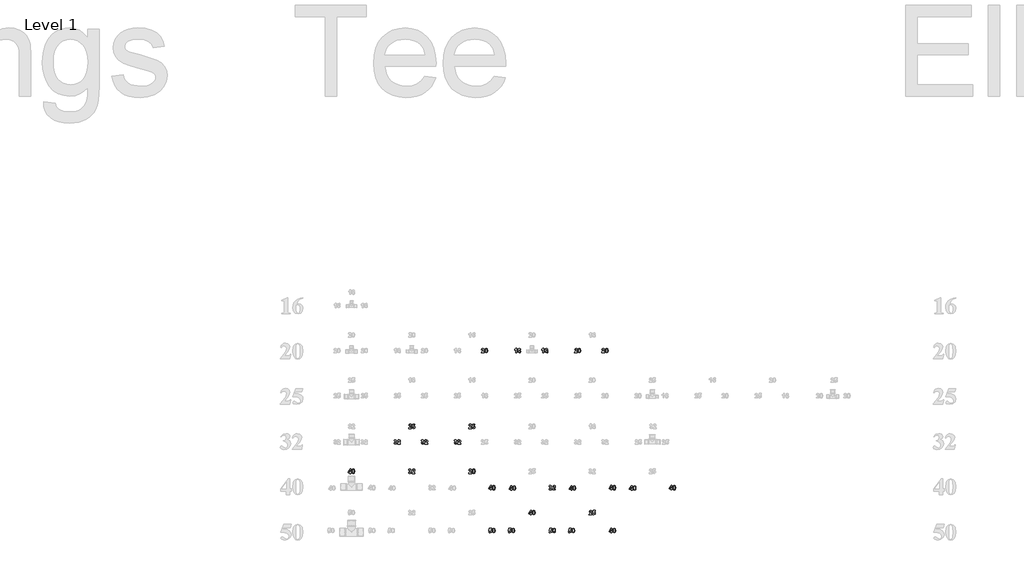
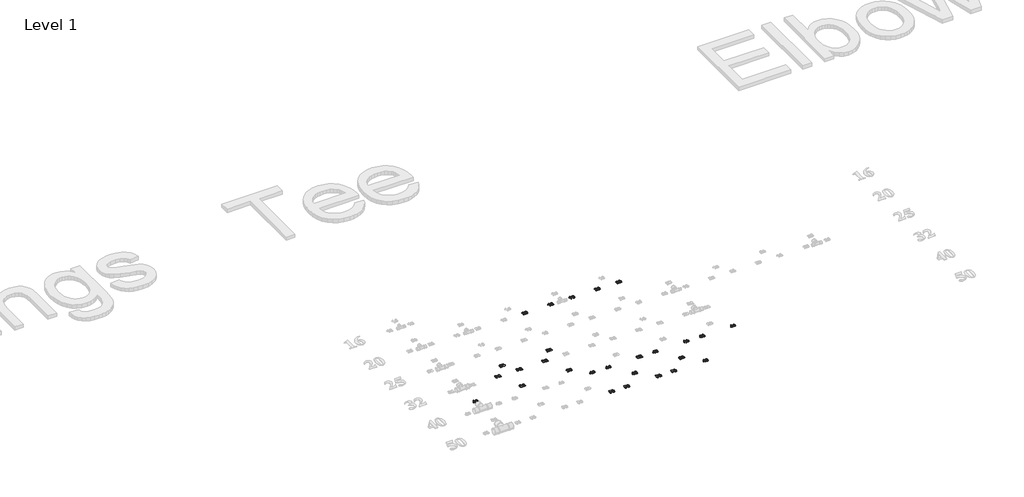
# One storey, part 28 of 57: 27 proxies.
"""IFC4 building model written with IfcOpenShell, lengths in millimetres."""

from ifc_helpers import new_model, si_unit, frame, origin, place, context, project, spatial, polyline, outline, extrude, element, save

model = new_model("IFC4")

# Units and contexts
model_context = context("Model", 3, world=origin())
ifc_project = project(units=[si_unit("LENGTHUNIT", "METRE", prefix="MILLI")], contexts=[model_context])

# Site, building, storey
site = spatial("IfcSite", under=ifc_project)
building = spatial("IfcBuilding", under=site)
storey = spatial("IfcBuildingStorey", under=building, Name="Level 1", Elevation=27.3876384)

# Proxies
placement = place(None, origin())
element("IfcBuildingElementProxy", 1, Name="30mm Arial", ObjectType="30mm Arial", at=placement, inside=storey, context=model_context, shape_type="SweptSolid", body=[
    extrude(outline(polyline([(14051.7711985, 29891.7147148), (14051.7711985, 29885.8846611), (14032.3376861, 29885.8846611), (14034.1975339, 29891.6046422), (14040.3084626, 29898.7745455), (14044.8176448, 29903.6632884), (14045.9411448, 29907.1704301), (14044.9960384, 29910.1196174), (14042.3884558, 29911.1482272), (14039.7770775, 29910.1347999), (14038.6535776, 29906.7756869), (14032.8235239, 29907.307072), (14035.9511048, 29914.3555158), (14042.5175064, 29916.4924431), (14049.3040533, 29914.0974145), (14051.7711985, 29908.1421057), (14051.0955803, 29904.2857681), (14048.9548574, 29900.4522042), (14045.3300519, 29896.6262314), (14042.0013038, 29893.3088701), (14040.9081687, 29891.7147148), (14051.7711985, 29891.7147148)])), frame((0.0, 0.0, 27.3876384), z_axis=(0.0, 0.0, 1.0), x_axis=(1.0, 0.0, 0.0)), (0.0, 0.0, 1.0), 2.0),
    extrude(outline(polyline([(14065.3746571, 29916.4924431), (14072.1687952, 29913.3344973), (14075.0914133, 29900.938042), (14072.1536128, 29888.5112217), (14065.3746571, 29885.3988233), (14058.3338045, 29888.8148704), (14055.6579009, 29900.9987717), (14058.5957014, 29913.3800446), (14065.3746571, 29916.4924431)]), holes=[polyline([(14065.3746571, 29911.1482272), (14063.4313059, 29910.5067694), (14062.1104343, 29908.2028355), (14061.4879547, 29900.938042), (14062.0421134, 29893.919963), (14063.4426927, 29891.3769057), (14065.3746571, 29890.7430392), (14067.3180084, 29891.3844969), (14068.6388799, 29893.6884309), (14069.2613596, 29900.938042), (14068.7072009, 29907.9523253), (14067.3066215, 29910.5067694), (14065.3746571, 29911.1482272)])]), frame((0.0, 0.0, 27.3876384), z_axis=(0.0, 0.0, 1.0), x_axis=(1.0, 0.0, 0.0)), (0.0, 0.0, 1.0), 2.0),
])
element("IfcBuildingElementProxy", 2, Name="30mm Arial", ObjectType="30mm Arial", at=placement, inside=storey, context=model_context, shape_type="SweptSolid", body=[
    extrude(outline(polyline([(14445.6628204, 29885.8846611), (14439.8327667, 29885.8846611), (14439.8327667, 29907.7625449), (14432.5451995, 29902.8889844), (14432.5451995, 29908.7190381), (14437.4111688, 29911.5771309), (14441.0169963, 29916.4924431), (14445.6628204, 29916.4924431), (14445.6628204, 29885.8846611)])), frame((0.0, 0.0, 27.3876384), z_axis=(0.0, 0.0, 1.0), x_axis=(1.0, 0.0, 0.0)), (0.0, 0.0, 1.0), 2.0),
    extrude(outline(polyline([(14473.3555755, 29908.3698422), (14467.5255218, 29907.7473625), (14466.4931165, 29910.3169891), (14464.3220287, 29911.1482272), (14461.3310897, 29909.5350938), (14459.7900729, 29902.7599337), (14465.1191064, 29905.3181735), (14471.279378, 29902.5853358), (14473.8414133, 29895.5330963), (14471.2224439, 29888.1734126), (14464.4890355, 29885.3988233), (14457.2470156, 29888.9818771), (14454.4079009, 29900.7254879), (14457.3722707, 29912.795521), (14465.0735591, 29916.4924431), (14470.5771905, 29914.41245), (14473.3555755, 29908.3698422)]), holes=[polyline([(14460.2379547, 29895.662147), (14461.4980965, 29892.022159), (14464.3751673, 29890.7430392), (14466.971363, 29891.790627), (14468.0113596, 29895.2294477), (14466.8916553, 29898.8314796), (14464.0942923, 29899.9739576), (14461.357659, 29898.8808225), (14460.2379547, 29895.662147)])]), frame((0.0, 0.0, 27.3876384), z_axis=(0.0, 0.0, 1.0), x_axis=(1.0, 0.0, 0.0)), (0.0, 0.0, 1.0), 2.0),
])
element("IfcBuildingElementProxy", 3, Name="30mm Arial", ObjectType="30mm Arial", at=placement, inside=storey, context=model_context, shape_type="SweptSolid", body=[
    extrude(outline(polyline([(14265.6628204, 29885.8846611), (14259.8327667, 29885.8846611), (14259.8327667, 29907.7625449), (14252.5451995, 29902.8889844), (14252.5451995, 29908.7190381), (14257.4111688, 29911.5771309), (14261.0169963, 29916.4924431), (14265.6628204, 29916.4924431), (14265.6628204, 29885.8846611)])), frame((0.0, 0.0, 27.3876384), z_axis=(0.0, 0.0, 1.0), x_axis=(1.0, 0.0, 0.0)), (0.0, 0.0, 1.0), 2.0),
    extrude(outline(polyline([(14293.3555755, 29908.3698422), (14287.5255218, 29907.7473625), (14286.4931165, 29910.3169891), (14284.3220287, 29911.1482272), (14281.3310897, 29909.5350938), (14279.7900729, 29902.7599337), (14285.1191064, 29905.3181735), (14291.279378, 29902.5853358), (14293.8414133, 29895.5330963), (14291.2224439, 29888.1734126), (14284.4890355, 29885.3988233), (14277.2470156, 29888.9818771), (14274.4079009, 29900.7254879), (14277.3722707, 29912.795521), (14285.0735591, 29916.4924431), (14290.5771905, 29914.41245), (14293.3555755, 29908.3698422)]), holes=[polyline([(14280.2379547, 29895.662147), (14281.4980965, 29892.022159), (14284.3751673, 29890.7430392), (14286.971363, 29891.790627), (14288.0113596, 29895.2294477), (14286.8916553, 29898.8314796), (14284.0942923, 29899.9739576), (14281.357659, 29898.8808225), (14280.2379547, 29895.662147)])]), frame((0.0, 0.0, 27.3876384), z_axis=(0.0, 0.0, 1.0), x_axis=(1.0, 0.0, 0.0)), (0.0, 0.0, 1.0), 2.0),
])
element("IfcBuildingElementProxy", 4, Name="30mm Arial", ObjectType="30mm Arial", at=placement, inside=storey, context=model_context, shape_type="SweptSolid", body=[
    extrude(outline(polyline([(14849.2711985, 29891.7147148), (14849.2711985, 29885.8846611), (14829.8376861, 29885.8846611), (14831.6975339, 29891.6046422), (14837.8084626, 29898.7745455), (14842.3176448, 29903.6632884), (14843.4411448, 29907.1704301), (14842.4960384, 29910.1196174), (14839.8884558, 29911.1482272), (14837.2770775, 29910.1347999), (14836.1535776, 29906.7756869), (14830.3235239, 29907.307072), (14833.4511048, 29914.3555158), (14840.0175064, 29916.4924431), (14846.8040533, 29914.0974145), (14849.2711985, 29908.1421057), (14848.5955803, 29904.2857681), (14846.4548574, 29900.4522042), (14842.8300519, 29896.6262314), (14839.5013038, 29893.3088701), (14838.4081687, 29891.7147148), (14849.2711985, 29891.7147148)])), frame((0.0, 0.0, 27.3876384), z_axis=(0.0, 0.0, 1.0), x_axis=(1.0, 0.0, 0.0)), (0.0, 0.0, 1.0), 2.0),
    extrude(outline(polyline([(14862.8746571, 29916.4924431), (14869.6687952, 29913.3344973), (14872.5914133, 29900.938042), (14869.6536128, 29888.5112217), (14862.8746571, 29885.3988233), (14855.8338045, 29888.8148704), (14853.1579009, 29900.9987717), (14856.0957014, 29913.3800446), (14862.8746571, 29916.4924431)]), holes=[polyline([(14862.8746571, 29911.1482272), (14860.9313059, 29910.5067694), (14859.6104343, 29908.2028355), (14858.9879547, 29900.938042), (14859.5421134, 29893.919963), (14860.9426927, 29891.3769057), (14862.8746571, 29890.7430392), (14864.8180084, 29891.3844969), (14866.1388799, 29893.6884309), (14866.7613596, 29900.938042), (14866.2072009, 29907.9523253), (14864.8066215, 29910.5067694), (14862.8746571, 29911.1482272)])]), frame((0.0, 0.0, 27.3876384), z_axis=(0.0, 0.0, 1.0), x_axis=(1.0, 0.0, 0.0)), (0.0, 0.0, 1.0), 2.0),
])
element("IfcBuildingElementProxy", 5, Name="30mm Arial", ObjectType="30mm Arial", at=placement, inside=storey, context=model_context, shape_type="SweptSolid", body=[
    extrude(outline(polyline([(14669.2711985, 29891.7147148), (14669.2711985, 29885.8846611), (14649.8376861, 29885.8846611), (14651.6975339, 29891.6046422), (14657.8084626, 29898.7745455), (14662.3176448, 29903.6632884), (14663.4411448, 29907.1704301), (14662.4960384, 29910.1196174), (14659.8884558, 29911.1482272), (14657.2770775, 29910.1347999), (14656.1535776, 29906.7756869), (14650.3235239, 29907.307072), (14653.4511048, 29914.3555158), (14660.0175064, 29916.4924431), (14666.8040533, 29914.0974145), (14669.2711985, 29908.1421057), (14668.5955803, 29904.2857681), (14666.4548574, 29900.4522042), (14662.8300519, 29896.6262314), (14659.5013038, 29893.3088701), (14658.4081687, 29891.7147148), (14669.2711985, 29891.7147148)])), frame((0.0, 0.0, 27.3876384), z_axis=(0.0, 0.0, 1.0), x_axis=(1.0, 0.0, 0.0)), (0.0, 0.0, 1.0), 2.0),
    extrude(outline(polyline([(14682.8746571, 29916.4924431), (14689.6687952, 29913.3344973), (14692.5914133, 29900.938042), (14689.6536128, 29888.5112217), (14682.8746571, 29885.3988233), (14675.8338045, 29888.8148704), (14673.1579009, 29900.9987717), (14676.0957014, 29913.3800446), (14682.8746571, 29916.4924431)]), holes=[polyline([(14682.8746571, 29911.1482272), (14680.9313059, 29910.5067694), (14679.6104343, 29908.2028355), (14678.9879547, 29900.938042), (14679.5421134, 29893.919963), (14680.9426927, 29891.3769057), (14682.8746571, 29890.7430392), (14684.8180084, 29891.3844969), (14686.1388799, 29893.6884309), (14686.7613596, 29900.938042), (14686.2072009, 29907.9523253), (14684.8066215, 29910.5067694), (14682.8746571, 29911.1482272)])]), frame((0.0, 0.0, 27.3876384), z_axis=(0.0, 0.0, 1.0), x_axis=(1.0, 0.0, 0.0)), (0.0, 0.0, 1.0), 2.0),
])
element("IfcBuildingElementProxy", 6, Name="30mm Arial", ObjectType="30mm Arial", at=placement, inside=storey, context=model_context, shape_type="SweptSolid", body=[
    extrude(outline(polyline([(13569.1163525, 29389.4811137), (13569.1163525, 29383.65106), (13549.6828401, 29383.65106), (13551.542688, 29389.371041), (13557.6536167, 29396.5409443), (13562.1627988, 29401.4296873), (13563.2862988, 29404.936829), (13562.3411924, 29407.8860163), (13559.7336098, 29408.9146261), (13557.1222316, 29407.9011987), (13555.9987316, 29404.5420858), (13550.1686779, 29405.0734709), (13553.2962588, 29412.1219147), (13559.8626605, 29414.258842), (13566.6492074, 29411.8638134), (13569.1163525, 29405.9085046), (13568.4407343, 29402.052167), (13566.3000114, 29398.218603), (13562.6752059, 29394.3926303), (13559.3464578, 29391.075269), (13558.2533227, 29389.4811137), (13569.1163525, 29389.4811137)])), frame((0.0, 0.0, 27.3876384), z_axis=(0.0, 0.0, 1.0), x_axis=(1.0, 0.0, 0.0)), (0.0, 0.0, 1.0), 2.0),
    extrude(outline(polyline([(13573.003055, 29392.2670899), (13578.3472709, 29392.8819783), (13579.8351492, 29389.6860765), (13582.6894463, 29388.5094381), (13585.8132316, 29389.7581931), (13587.0923514, 29393.5196405), (13585.9043262, 29397.0495558), (13582.8109057, 29398.2261942), (13578.5446425, 29395.7970052), (13573.4888928, 29396.5485356), (13576.8897574, 29413.7730041), (13591.4648917, 29413.7730041), (13591.4648917, 29407.9429504), (13581.6039024, 29407.9429504), (13580.427264, 29402.3785893), (13584.1849158, 29403.5704102), (13590.3793479, 29400.8110032), (13592.9224052, 29393.6486911), (13590.804456, 29387.0974719), (13582.7805409, 29383.1652222), (13576.0964754, 29385.6323673), (13573.003055, 29392.2670899)])), frame((0.0, 0.0, 27.3876384), z_axis=(0.0, 0.0, 1.0), x_axis=(1.0, 0.0, 0.0)), (0.0, 0.0, 1.0), 2.0),
])
element("IfcBuildingElementProxy", 7, Name="30mm Arial", ObjectType="30mm Arial", at=placement, inside=storey, context=model_context, shape_type="SweptSolid", body=[
    extrude(outline(polyline([(13633.5876861, 29288.2641256), (13639.4177398, 29288.9397438), (13640.7310201, 29285.6907034), (13643.3196247, 29284.5672035), (13646.075236, 29285.8539146), (13647.1911448, 29289.3193046), (13646.1701262, 29292.5911186), (13643.6764118, 29293.7981219), (13641.361091, 29293.3654226), (13641.8697025, 29298.1706622), (13644.7429777, 29299.1271554), (13645.7336313, 29301.8296282), (13644.9934878, 29304.1183797), (13643.0235673, 29304.9723915), (13640.9473698, 29303.9817378), (13639.9035776, 29301.085689), (13634.0735239, 29301.9586788), (13635.679066, 29306.5931161), (13638.6775963, 29309.3221581), (13642.9856112, 29310.3166074), (13649.5292392, 29307.5609961), (13651.563685, 29302.4596991), (13647.198736, 29296.0299393), (13651.4346344, 29293.5286337), (13653.0211985, 29288.8334668), (13650.208653, 29282.035533), (13643.2057565, 29279.2229876), (13636.6203768, 29281.7242932), (13633.5876861, 29288.2641256)])), frame((0.0, 0.0, 27.3876384), z_axis=(0.0, 0.0, 1.0), x_axis=(1.0, 0.0, 0.0)), (0.0, 0.0, 1.0), 2.0),
    extrude(outline(polyline([(13676.3414133, 29285.5388791), (13676.3414133, 29279.7088254), (13656.9079009, 29279.7088254), (13658.7677488, 29285.4288065), (13664.8786775, 29292.5987098), (13669.3878597, 29297.4874528), (13670.5113596, 29300.9945944), (13669.5662532, 29303.9437818), (13666.9586706, 29304.9723915), (13664.3472924, 29303.9589642), (13663.2237925, 29300.5998512), (13657.3937388, 29301.1312363), (13660.5213196, 29308.1796802), (13667.0877213, 29310.3166074), (13673.8742682, 29307.9215788), (13676.3414133, 29301.9662701), (13675.6657951, 29298.1099324), (13673.5250723, 29294.2763685), (13669.9002667, 29290.4503957), (13666.5715186, 29287.1330344), (13665.4783835, 29285.5388791), (13676.3414133, 29285.5388791)])), frame((0.0, 0.0, 27.3876384), z_axis=(0.0, 0.0, 1.0), x_axis=(1.0, 0.0, 0.0)), (0.0, 0.0, 1.0), 2.0),
])
element("IfcBuildingElementProxy", 8, Name="30mm Arial", ObjectType="30mm Arial", at=placement, inside=storey, context=model_context, shape_type="SweptSolid", body=[
    extrude(outline(polyline([(13453.5876861, 29288.2641256), (13459.4177398, 29288.9397438), (13460.7310201, 29285.6907034), (13463.3196247, 29284.5672035), (13466.075236, 29285.8539146), (13467.1911448, 29289.3193046), (13466.1701262, 29292.5911186), (13463.6764118, 29293.7981219), (13461.361091, 29293.3654226), (13461.8697025, 29298.1706622), (13464.7429777, 29299.1271554), (13465.7336313, 29301.8296282), (13464.9934878, 29304.1183797), (13463.0235673, 29304.9723915), (13460.9473698, 29303.9817378), (13459.9035776, 29301.085689), (13454.0735239, 29301.9586788), (13455.679066, 29306.5931161), (13458.6775963, 29309.3221581), (13462.9856112, 29310.3166074), (13469.5292392, 29307.5609961), (13471.563685, 29302.4596991), (13467.198736, 29296.0299393), (13471.4346344, 29293.5286337), (13473.0211985, 29288.8334668), (13470.208653, 29282.035533), (13463.2057565, 29279.2229876), (13456.6203768, 29281.7242932), (13453.5876861, 29288.2641256)])), frame((0.0, 0.0, 27.3876384), z_axis=(0.0, 0.0, 1.0), x_axis=(1.0, 0.0, 0.0)), (0.0, 0.0, 1.0), 2.0),
    extrude(outline(polyline([(13496.3414133, 29285.5388791), (13496.3414133, 29279.7088254), (13476.9079009, 29279.7088254), (13478.7677488, 29285.4288065), (13484.8786775, 29292.5987098), (13489.3878597, 29297.4874528), (13490.5113596, 29300.9945944), (13489.5662532, 29303.9437818), (13486.9586706, 29304.9723915), (13484.3472924, 29303.9589642), (13483.2237925, 29300.5998512), (13477.3937388, 29301.1312363), (13480.5213196, 29308.1796802), (13487.0877213, 29310.3166074), (13493.8742682, 29307.9215788), (13496.3414133, 29301.9662701), (13495.6657951, 29298.1099324), (13493.5250723, 29294.2763685), (13489.9002667, 29290.4503957), (13486.5715186, 29287.1330344), (13485.4783835, 29285.5388791), (13496.3414133, 29285.5388791)])), frame((0.0, 0.0, 27.3876384), z_axis=(0.0, 0.0, 1.0), x_axis=(1.0, 0.0, 0.0)), (0.0, 0.0, 1.0), 2.0),
])
element("IfcBuildingElementProxy", 9, Name="30mm Arial", ObjectType="30mm Arial", at=placement, inside=storey, context=model_context, shape_type="SweptSolid", body=[
    extrude(outline(polyline([(13967.8663525, 29389.4811137), (13967.8663525, 29383.65106), (13948.4328401, 29383.65106), (13950.292688, 29389.371041), (13956.4036167, 29396.5409443), (13960.9127988, 29401.4296873), (13962.0362988, 29404.936829), (13961.0911924, 29407.8860163), (13958.4836098, 29408.9146261), (13955.8722316, 29407.9011987), (13954.7487316, 29404.5420858), (13948.9186779, 29405.0734709), (13952.0462588, 29412.1219147), (13958.6126605, 29414.258842), (13965.3992074, 29411.8638134), (13967.8663525, 29405.9085046), (13967.1907343, 29402.052167), (13965.0500114, 29398.218603), (13961.4252059, 29394.3926303), (13958.0964578, 29391.075269), (13957.0033227, 29389.4811137), (13967.8663525, 29389.4811137)])), frame((0.0, 0.0, 27.3876384), z_axis=(0.0, 0.0, 1.0), x_axis=(1.0, 0.0, 0.0)), (0.0, 0.0, 1.0), 2.0),
    extrude(outline(polyline([(13971.753055, 29392.2670899), (13977.0972709, 29392.8819783), (13978.5851492, 29389.6860765), (13981.4394463, 29388.5094381), (13984.5632316, 29389.7581931), (13985.8423514, 29393.5196405), (13984.6543262, 29397.0495558), (13981.5609057, 29398.2261942), (13977.2946425, 29395.7970052), (13972.2388928, 29396.5485356), (13975.6397574, 29413.7730041), (13990.2148917, 29413.7730041), (13990.2148917, 29407.9429504), (13980.3539024, 29407.9429504), (13979.177264, 29402.3785893), (13982.9349158, 29403.5704102), (13989.1293479, 29400.8110032), (13991.6724052, 29393.6486911), (13989.554456, 29387.0974719), (13981.5305409, 29383.1652222), (13974.8464754, 29385.6323673), (13971.753055, 29392.2670899)])), frame((0.0, 0.0, 27.3876384), z_axis=(0.0, 0.0, 1.0), x_axis=(1.0, 0.0, 0.0)), (0.0, 0.0, 1.0), 2.0),
])
element("IfcBuildingElementProxy", 10, Name="30mm Arial", ObjectType="30mm Arial", at=placement, inside=storey, context=model_context, shape_type="SweptSolid", body=[
    extrude(outline(polyline([(13852.3376861, 29288.2641256), (13858.1677398, 29288.9397438), (13859.4810201, 29285.6907034), (13862.0696247, 29284.5672035), (13864.825236, 29285.8539146), (13865.9411448, 29289.3193046), (13864.9201262, 29292.5911186), (13862.4264118, 29293.7981219), (13860.111091, 29293.3654226), (13860.6197025, 29298.1706622), (13863.4929777, 29299.1271554), (13864.4836313, 29301.8296282), (13863.7434878, 29304.1183797), (13861.7735673, 29304.9723915), (13859.6973698, 29303.9817378), (13858.6535776, 29301.085689), (13852.8235239, 29301.9586788), (13854.429066, 29306.5931161), (13857.4275963, 29309.3221581), (13861.7356112, 29310.3166074), (13868.2792392, 29307.5609961), (13870.313685, 29302.4596991), (13865.948736, 29296.0299393), (13870.1846344, 29293.5286337), (13871.7711985, 29288.8334668), (13868.958653, 29282.035533), (13861.9557565, 29279.2229876), (13855.3703768, 29281.7242932), (13852.3376861, 29288.2641256)])), frame((0.0, 0.0, 27.3876384), z_axis=(0.0, 0.0, 1.0), x_axis=(1.0, 0.0, 0.0)), (0.0, 0.0, 1.0), 2.0),
    extrude(outline(polyline([(13895.0914133, 29285.5388791), (13895.0914133, 29279.7088254), (13875.6579009, 29279.7088254), (13877.5177488, 29285.4288065), (13883.6286775, 29292.5987098), (13888.1378597, 29297.4874528), (13889.2613596, 29300.9945944), (13888.3162532, 29303.9437818), (13885.7086706, 29304.9723915), (13883.0972924, 29303.9589642), (13881.9737925, 29300.5998512), (13876.1437388, 29301.1312363), (13879.2713196, 29308.1796802), (13885.8377213, 29310.3166074), (13892.6242682, 29307.9215788), (13895.0914133, 29301.9662701), (13894.4157951, 29298.1099324), (13892.2750723, 29294.2763685), (13888.6502667, 29290.4503957), (13885.3215186, 29287.1330344), (13884.2283835, 29285.5388791), (13895.0914133, 29285.5388791)])), frame((0.0, 0.0, 27.3876384), z_axis=(0.0, 0.0, 1.0), x_axis=(1.0, 0.0, 0.0)), (0.0, 0.0, 1.0), 2.0),
])
element("IfcBuildingElementProxy", 11, Name="30mm Arial", ObjectType="30mm Arial", at=placement, inside=storey, context=model_context, shape_type="SweptSolid", body=[
    extrude(outline(polyline([(13161.6212719, 29085.9185315), (13161.6212719, 29092.234423), (13149.9611645, 29092.234423), (13149.9611645, 29097.0700274), (13162.3955759, 29116.0404756), (13167.4513256, 29116.0404756), (13167.4513256, 29097.0928011), (13171.3380281, 29097.0928011), (13171.3380281, 29092.234423), (13167.4513256, 29092.234423), (13167.4513256, 29085.9185315), (13161.6212719, 29085.9185315)]), holes=[polyline([(13161.6212719, 29097.0928011), (13161.6212719, 29107.0372937), (13155.1080088, 29097.0928011), (13161.6212719, 29097.0928011)])]), frame((0.0, 0.0, 27.3876384), z_axis=(0.0, 0.0, 1.0), x_axis=(1.0, 0.0, 0.0)), (0.0, 0.0, 1.0), 2.0),
    extrude(outline(polyline([(13183.9698112, 29116.5263135), (13190.7639493, 29113.3683677), (13193.6865673, 29100.9719123), (13190.7487668, 29088.5450921), (13183.9698112, 29085.4326936), (13176.9289585, 29088.8487407), (13174.253055, 29101.0326421), (13177.1908555, 29113.413915), (13183.9698112, 29116.5263135)]), holes=[polyline([(13183.9698112, 29111.1820975), (13182.0264599, 29110.5406398), (13180.7055884, 29108.2367058), (13180.0831087, 29100.9719123), (13180.6372674, 29093.9538333), (13182.0378467, 29091.4107761), (13183.9698112, 29090.7769095), (13185.9131624, 29091.4183673), (13187.2340339, 29093.7223013), (13187.8565136, 29100.9719123), (13187.3023549, 29107.9861957), (13185.9017756, 29110.5406398), (13183.9698112, 29111.1820975)])]), frame((0.0, 0.0, 27.3876384), z_axis=(0.0, 0.0, 1.0), x_axis=(1.0, 0.0, 0.0)), (0.0, 0.0, 1.0), 2.0),
])
element("IfcBuildingElementProxy", 12, Name="30mm Arial", ObjectType="30mm Arial", at=placement, inside=storey, context=model_context, shape_type="SweptSolid", body=[
    extrude(outline(polyline([(13549.6828401, 29094.4738316), (13555.5128938, 29095.1494498), (13556.8261742, 29091.9004095), (13559.4147787, 29090.7769095), (13562.1703901, 29092.0636206), (13563.2862988, 29095.5290106), (13562.2652803, 29098.8008246), (13559.7715659, 29100.0078279), (13557.4562451, 29099.5751286), (13557.9648565, 29104.3803682), (13560.8381317, 29105.3368614), (13561.8287853, 29108.0393342), (13561.0886418, 29110.3280858), (13559.1187213, 29111.1820975), (13557.0425238, 29110.1914439), (13555.9987316, 29107.2953951), (13550.1686779, 29108.1683849), (13551.7742201, 29112.8028221), (13554.7727503, 29115.5318642), (13559.0807652, 29116.5263135), (13565.6243932, 29113.7707021), (13567.6588391, 29108.6694051), (13563.29389, 29102.2396454), (13567.5297884, 29099.7383398), (13569.1163525, 29095.0431728), (13566.303807, 29088.2452391), (13559.3009105, 29085.4326936), (13552.7155308, 29087.9339992), (13549.6828401, 29094.4738316)])), frame((0.0, 0.0, 27.3876384), z_axis=(0.0, 0.0, 1.0), x_axis=(1.0, 0.0, 0.0)), (0.0, 0.0, 1.0), 2.0),
    extrude(outline(polyline([(13592.4365673, 29091.7485852), (13592.4365673, 29085.9185315), (13573.003055, 29085.9185315), (13574.8629028, 29091.6385125), (13580.9738315, 29098.8084158), (13585.4830137, 29103.6971588), (13586.6065136, 29107.2043005), (13585.6614073, 29110.1534878), (13583.0538246, 29111.1820975), (13580.4424464, 29110.1686702), (13579.3189465, 29106.8095573), (13573.4888928, 29107.3409424), (13576.6164737, 29114.3893862), (13583.1828753, 29116.5263135), (13589.9694222, 29114.1312849), (13592.4365673, 29108.1759761), (13591.7609491, 29104.3196385), (13589.6202263, 29100.4860745), (13585.9954208, 29096.6601018), (13582.6666726, 29093.3427405), (13581.5735376, 29091.7485852), (13592.4365673, 29091.7485852)])), frame((0.0, 0.0, 27.3876384), z_axis=(0.0, 0.0, 1.0), x_axis=(1.0, 0.0, 0.0)), (0.0, 0.0, 1.0), 2.0),
])
element("IfcBuildingElementProxy", 13, Name="30mm Arial", ObjectType="30mm Arial", at=placement, inside=storey, context=model_context, shape_type="SweptSolid", body=[
    extrude(outline(polyline([(14481.0876861, 28985.5315971), (14486.9177398, 28986.2072153), (14488.2310201, 28982.9581749), (14490.8196247, 28981.834675), (14493.575236, 28983.1213861), (14494.6911448, 28986.5867761), (14493.6701262, 28989.8585901), (14491.1764118, 28991.0655934), (14488.861091, 28990.6328941), (14489.3697025, 28995.4381337), (14492.2429777, 28996.3946269), (14493.2336313, 28999.0970997), (14492.4934878, 29001.3858512), (14490.5235673, 29002.239863), (14488.4473698, 29001.2492093), (14487.4035776, 28998.3531605), (14481.5735239, 28999.2261503), (14483.179066, 29003.8605876), (14486.1775963, 29006.5896296), (14490.4856112, 29007.5840789), (14497.0292392, 29004.8284676), (14499.063685, 28999.7271706), (14494.698736, 28993.2974108), (14498.9346344, 28990.7961052), (14500.5211985, 28986.1009383), (14497.708653, 28979.3030045), (14490.7057565, 28976.4904591), (14484.1203768, 28978.9917647), (14481.0876861, 28985.5315971)])), frame((0.0, 0.0, 27.3876384), z_axis=(0.0, 0.0, 1.0), x_axis=(1.0, 0.0, 0.0)), (0.0, 0.0, 1.0), 2.0),
    extrude(outline(polyline([(14523.8414133, 28982.8063506), (14523.8414133, 28976.9762969), (14504.4079009, 28976.9762969), (14506.2677488, 28982.696278), (14512.3786775, 28989.8661813), (14516.8878597, 28994.7549242), (14518.0113596, 28998.2620659), (14517.0662532, 29001.2112533), (14514.4586706, 29002.239863), (14511.8472924, 29001.2264357), (14510.7237925, 28997.8673227), (14504.8937388, 28998.3987078), (14508.0213196, 29005.4471517), (14514.5877213, 29007.5840789), (14521.3742682, 29005.1890503), (14523.8414133, 28999.2337416), (14523.1657951, 28995.3774039), (14521.0250723, 28991.54384), (14517.4002667, 28987.7178672), (14514.0715186, 28984.4005059), (14512.9783835, 28982.8063506), (14523.8414133, 28982.8063506)])), frame((0.0, 0.0, 27.3876384), z_axis=(0.0, 0.0, 1.0), x_axis=(1.0, 0.0, 0.0)), (0.0, 0.0, 1.0), 2.0),
])
element("IfcBuildingElementProxy", 14, Name="30mm Arial", ObjectType="30mm Arial", at=placement, inside=storey, context=model_context, shape_type="SweptSolid", body=[
    extrude(outline(polyline([(14228.0631244, 28974.6512629), (14228.0631244, 28980.9671544), (14216.403017, 28980.9671544), (14216.403017, 28985.8027588), (14228.8374285, 29004.7732071), (14233.8931782, 29004.7732071), (14233.8931782, 28985.8255325), (14237.7798806, 28985.8255325), (14237.7798806, 28980.9671544), (14233.8931782, 28980.9671544), (14233.8931782, 28974.6512629), (14228.0631244, 28974.6512629)]), holes=[polyline([(14228.0631244, 28985.8255325), (14228.0631244, 28995.7700252), (14221.5498613, 28985.8255325), (14228.0631244, 28985.8255325)])]), frame((0.0, 0.0, 27.3876384), z_axis=(0.0, 0.0, 1.0), x_axis=(1.0, 0.0, 0.0)), (0.0, 0.0, 1.0), 2.0),
    extrude(outline(polyline([(14250.4116637, 29005.2590449), (14257.2058018, 29002.1010991), (14260.1284199, 28989.7046438), (14257.1906194, 28977.2778235), (14250.4116637, 28974.1654251), (14243.3708111, 28977.5814722), (14240.6949075, 28989.7653735), (14243.632708, 29002.1466464), (14250.4116637, 29005.2590449)]), holes=[polyline([(14250.4116637, 28999.914829), (14248.4683124, 28999.2733712), (14247.1474409, 28996.9694372), (14246.5249612, 28989.7046438), (14247.07912, 28982.6865648), (14248.4796993, 28980.1435075), (14250.4116637, 28979.509641), (14252.3550149, 28980.1510987), (14253.6758865, 28982.4550327), (14254.2983662, 28989.7046438), (14253.7442074, 28996.7189271), (14252.3436281, 28999.2733712), (14250.4116637, 28999.914829)])]), frame((0.0, 0.0, 27.3876384), z_axis=(0.0, 0.0, 1.0), x_axis=(1.0, 0.0, 0.0)), (0.0, 0.0, 1.0), 2.0),
])
element("IfcBuildingElementProxy", 15, Name="30mm Arial", ObjectType="30mm Arial", at=placement, inside=storey, context=model_context, shape_type="SweptSolid", body=[
    extrude(outline(polyline([(14890.5261179, 28976.9762969), (14890.5261179, 28983.2921884), (14878.8660105, 28983.2921884), (14878.8660105, 28988.1277929), (14891.3004219, 29007.0982411), (14896.3561716, 29007.0982411), (14896.3561716, 28988.1505665), (14900.2428741, 28988.1505665), (14900.2428741, 28983.2921884), (14896.3561716, 28983.2921884), (14896.3561716, 28976.9762969), (14890.5261179, 28976.9762969)]), holes=[polyline([(14890.5261179, 28988.1505665), (14890.5261179, 28998.0950592), (14884.0128548, 28988.1505665), (14890.5261179, 28988.1505665)])]), frame((0.0, 0.0, 27.3876384), z_axis=(0.0, 0.0, 1.0), x_axis=(1.0, 0.0, 0.0)), (0.0, 0.0, 1.0), 2.0),
    extrude(outline(polyline([(14912.8746571, 29007.5840789), (14919.6687952, 29004.4261331), (14922.5914133, 28992.0296778), (14919.6536128, 28979.6028576), (14912.8746571, 28976.4904591), (14905.8338045, 28979.9065062), (14903.1579009, 28992.0904075), (14906.0957014, 29004.4716804), (14912.8746571, 29007.5840789)]), holes=[polyline([(14912.8746571, 29002.239863), (14910.9313059, 29001.5984053), (14909.6104343, 28999.2944713), (14908.9879547, 28992.0296778), (14909.5421134, 28985.0115988), (14910.9426927, 28982.4685415), (14912.8746571, 28981.834675), (14914.8180084, 28982.4761327), (14916.1388799, 28984.7800667), (14916.7613596, 28992.0296778), (14916.2072009, 28999.0439612), (14914.8066215, 29001.5984053), (14912.8746571, 29002.239863)])]), frame((0.0, 0.0, 27.3876384), z_axis=(0.0, 0.0, 1.0), x_axis=(1.0, 0.0, 0.0)), (0.0, 0.0, 1.0), 2.0),
])
element("IfcBuildingElementProxy", 16, Name="30mm Arial", ObjectType="30mm Arial", at=placement, inside=storey, context=model_context, shape_type="SweptSolid", body=[
    extrude(outline(polyline([(14626.8131244, 28974.6512629), (14626.8131244, 28980.9671544), (14615.153017, 28980.9671544), (14615.153017, 28985.8027588), (14627.5874285, 29004.7732071), (14632.6431782, 29004.7732071), (14632.6431782, 28985.8255325), (14636.5298806, 28985.8255325), (14636.5298806, 28980.9671544), (14632.6431782, 28980.9671544), (14632.6431782, 28974.6512629), (14626.8131244, 28974.6512629)]), holes=[polyline([(14626.8131244, 28985.8255325), (14626.8131244, 28995.7700252), (14620.2998613, 28985.8255325), (14626.8131244, 28985.8255325)])]), frame((0.0, 0.0, 27.3876384), z_axis=(0.0, 0.0, 1.0), x_axis=(1.0, 0.0, 0.0)), (0.0, 0.0, 1.0), 2.0),
    extrude(outline(polyline([(14649.1616637, 29005.2590449), (14655.9558018, 29002.1010991), (14658.8784199, 28989.7046438), (14655.9406194, 28977.2778235), (14649.1616637, 28974.1654251), (14642.1208111, 28977.5814722), (14639.4449075, 28989.7653735), (14642.382708, 29002.1466464), (14649.1616637, 29005.2590449)]), holes=[polyline([(14649.1616637, 28999.914829), (14647.2183124, 28999.2733712), (14645.8974409, 28996.9694372), (14645.2749612, 28989.7046438), (14645.82912, 28982.6865648), (14647.2296993, 28980.1435075), (14649.1616637, 28979.509641), (14651.1050149, 28980.1510987), (14652.4258865, 28982.4550327), (14653.0483662, 28989.7046438), (14652.4942074, 28996.7189271), (14651.0936281, 28999.2733712), (14649.1616637, 28999.914829)])]), frame((0.0, 0.0, 27.3876384), z_axis=(0.0, 0.0, 1.0), x_axis=(1.0, 0.0, 0.0)), (0.0, 0.0, 1.0), 2.0),
])
element("IfcBuildingElementProxy", 17, Name="30mm Arial", ObjectType="30mm Arial", at=placement, inside=storey, context=model_context, shape_type="SweptSolid", body=[
    extrude(outline(polyline([(15289.2761179, 28976.9762969), (15289.2761179, 28983.2921884), (15277.6160105, 28983.2921884), (15277.6160105, 28988.1277929), (15290.0504219, 29007.0982411), (15295.1061716, 29007.0982411), (15295.1061716, 28988.1505665), (15298.9928741, 28988.1505665), (15298.9928741, 28983.2921884), (15295.1061716, 28983.2921884), (15295.1061716, 28976.9762969), (15289.2761179, 28976.9762969)]), holes=[polyline([(15289.2761179, 28988.1505665), (15289.2761179, 28998.0950592), (15282.7628548, 28988.1505665), (15289.2761179, 28988.1505665)])]), frame((0.0, 0.0, 27.3876384), z_axis=(0.0, 0.0, 1.0), x_axis=(1.0, 0.0, 0.0)), (0.0, 0.0, 1.0), 2.0),
    extrude(outline(polyline([(15311.6246571, 29007.5840789), (15318.4187952, 29004.4261331), (15321.3414133, 28992.0296778), (15318.4036128, 28979.6028576), (15311.6246571, 28976.4904591), (15304.5838045, 28979.9065062), (15301.9079009, 28992.0904075), (15304.8457014, 29004.4716804), (15311.6246571, 29007.5840789)]), holes=[polyline([(15311.6246571, 29002.239863), (15309.6813059, 29001.5984053), (15308.3604343, 28999.2944713), (15307.7379547, 28992.0296778), (15308.2921134, 28985.0115988), (15309.6926927, 28982.4685415), (15311.6246571, 28981.834675), (15313.5680084, 28982.4761327), (15314.8888799, 28984.7800667), (15315.5113596, 28992.0296778), (15314.9572009, 28999.0439612), (15313.5566215, 29001.5984053), (15311.6246571, 29002.239863)])]), frame((0.0, 0.0, 27.3876384), z_axis=(0.0, 0.0, 1.0), x_axis=(1.0, 0.0, 0.0)), (0.0, 0.0, 1.0), 2.0),
])
element("IfcBuildingElementProxy", 18, Name="30mm Arial", ObjectType="30mm Arial", at=placement, inside=storey, context=model_context, shape_type="SweptSolid", body=[
    extrude(outline(polyline([(15025.5631244, 28974.6512629), (15025.5631244, 28980.9671544), (15013.903017, 28980.9671544), (15013.903017, 28985.8027588), (15026.3374285, 29004.7732071), (15031.3931782, 29004.7732071), (15031.3931782, 28985.8255325), (15035.2798806, 28985.8255325), (15035.2798806, 28980.9671544), (15031.3931782, 28980.9671544), (15031.3931782, 28974.6512629), (15025.5631244, 28974.6512629)]), holes=[polyline([(15025.5631244, 28985.8255325), (15025.5631244, 28995.7700252), (15019.0498613, 28985.8255325), (15025.5631244, 28985.8255325)])]), frame((0.0, 0.0, 27.3876384), z_axis=(0.0, 0.0, 1.0), x_axis=(1.0, 0.0, 0.0)), (0.0, 0.0, 1.0), 2.0),
    extrude(outline(polyline([(15047.9116637, 29005.2590449), (15054.7058018, 29002.1010991), (15057.6284199, 28989.7046438), (15054.6906194, 28977.2778235), (15047.9116637, 28974.1654251), (15040.8708111, 28977.5814722), (15038.1949075, 28989.7653735), (15041.132708, 29002.1466464), (15047.9116637, 29005.2590449)]), holes=[polyline([(15047.9116637, 28999.914829), (15045.9683124, 28999.2733712), (15044.6474409, 28996.9694372), (15044.0249612, 28989.7046438), (15044.57912, 28982.6865648), (15045.9796993, 28980.1435075), (15047.9116637, 28979.509641), (15049.8550149, 28980.1510987), (15051.1758865, 28982.4550327), (15051.7983662, 28989.7046438), (15051.2442074, 28996.7189271), (15049.8436281, 28999.2733712), (15047.9116637, 28999.914829)])]), frame((0.0, 0.0, 27.3876384), z_axis=(0.0, 0.0, 1.0), x_axis=(1.0, 0.0, 0.0)), (0.0, 0.0, 1.0), 2.0),
])
element("IfcBuildingElementProxy", 19, Name="30mm Arial", ObjectType="30mm Arial", at=placement, inside=storey, context=model_context, shape_type="SweptSolid", body=[
    extrude(outline(polyline([(13967.8663525, 29091.7485852), (13967.8663525, 29085.9185315), (13948.4328401, 29085.9185315), (13950.292688, 29091.6385125), (13956.4036167, 29098.8084158), (13960.9127988, 29103.6971588), (13962.0362988, 29107.2043005), (13961.0911924, 29110.1534878), (13958.4836098, 29111.1820975), (13955.8722316, 29110.1686702), (13954.7487316, 29106.8095573), (13948.9186779, 29107.3409424), (13952.0462588, 29114.3893862), (13958.6126605, 29116.5263135), (13965.3992074, 29114.1312849), (13967.8663525, 29108.1759761), (13967.1907343, 29104.3196385), (13965.0500114, 29100.4860745), (13961.4252059, 29096.6601018), (13958.0964578, 29093.3427405), (13957.0033227, 29091.7485852), (13967.8663525, 29091.7485852)])), frame((0.0, 0.0, 27.3876384), z_axis=(0.0, 0.0, 1.0), x_axis=(1.0, 0.0, 0.0)), (0.0, 0.0, 1.0), 2.0),
    extrude(outline(polyline([(13981.4698112, 29116.5263135), (13988.2639493, 29113.3683677), (13991.1865673, 29100.9719123), (13988.2487668, 29088.5450921), (13981.4698112, 29085.4326936), (13974.4289585, 29088.8487407), (13971.753055, 29101.0326421), (13974.6908555, 29113.413915), (13981.4698112, 29116.5263135)]), holes=[polyline([(13981.4698112, 29111.1820975), (13979.5264599, 29110.5406398), (13978.2055884, 29108.2367058), (13977.5831087, 29100.9719123), (13978.1372674, 29093.9538333), (13979.5378467, 29091.4107761), (13981.4698112, 29090.7769095), (13983.4131624, 29091.4183673), (13984.7340339, 29093.7223013), (13985.3565136, 29100.9719123), (13984.8023549, 29107.9861957), (13983.4017756, 29110.5406398), (13981.4698112, 29111.1820975)])]), frame((0.0, 0.0, 27.3876384), z_axis=(0.0, 0.0, 1.0), x_axis=(1.0, 0.0, 0.0)), (0.0, 0.0, 1.0), 2.0),
])
element("IfcBuildingElementProxy", 20, Name="30mm Arial", ObjectType="30mm Arial", at=placement, inside=storey, context=model_context, shape_type="SweptSolid", body=[
    extrude(outline(polyline([(14093.0261179, 28976.9762969), (14093.0261179, 28983.2921884), (14081.3660105, 28983.2921884), (14081.3660105, 28988.1277929), (14093.8004219, 29007.0982411), (14098.8561716, 29007.0982411), (14098.8561716, 28988.1505665), (14102.7428741, 28988.1505665), (14102.7428741, 28983.2921884), (14098.8561716, 28983.2921884), (14098.8561716, 28976.9762969), (14093.0261179, 28976.9762969)]), holes=[polyline([(14093.0261179, 28988.1505665), (14093.0261179, 28998.0950592), (14086.5128548, 28988.1505665), (14093.0261179, 28988.1505665)])]), frame((0.0, 0.0, 27.3876384), z_axis=(0.0, 0.0, 1.0), x_axis=(1.0, 0.0, 0.0)), (0.0, 0.0, 1.0), 2.0),
    extrude(outline(polyline([(14115.3746571, 29007.5840789), (14122.1687952, 29004.4261331), (14125.0914133, 28992.0296778), (14122.1536128, 28979.6028576), (14115.3746571, 28976.4904591), (14108.3338045, 28979.9065062), (14105.6579009, 28992.0904075), (14108.5957014, 29004.4716804), (14115.3746571, 29007.5840789)]), holes=[polyline([(14115.3746571, 29002.239863), (14113.4313059, 29001.5984053), (14112.1104343, 28999.2944713), (14111.4879547, 28992.0296778), (14112.0421134, 28985.0115988), (14113.4426927, 28982.4685415), (14115.3746571, 28981.834675), (14117.3180084, 28982.4761327), (14118.6388799, 28984.7800667), (14119.2613596, 28992.0296778), (14118.7072009, 28999.0439612), (14117.3066215, 29001.5984053), (14115.3746571, 29002.239863)])]), frame((0.0, 0.0, 27.3876384), z_axis=(0.0, 0.0, 1.0), x_axis=(1.0, 0.0, 0.0)), (0.0, 0.0, 1.0), 2.0),
])
element("IfcBuildingElementProxy", 21, Name="30mm Arial", ObjectType="30mm Arial", at=placement, inside=storey, context=model_context, shape_type="SweptSolid", body=[
    extrude(outline(polyline([(14082.3376861, 28701.4812537), (14087.681902, 28702.0961422), (14089.1697803, 28698.9002404), (14092.0240774, 28697.7236019), (14095.1478627, 28698.9723569), (14096.4269826, 28702.7338043), (14095.2389573, 28706.2637197), (14092.1455369, 28707.4403581), (14087.8792736, 28705.0111691), (14082.8235239, 28705.7626994), (14086.2243886, 28722.987168), (14100.7995228, 28722.987168), (14100.7995228, 28717.1571143), (14090.9385336, 28717.1571143), (14089.7618951, 28711.5927531), (14093.5195469, 28712.784574), (14099.713979, 28710.0251671), (14102.2570363, 28702.862855), (14100.1390871, 28696.3116358), (14092.115172, 28692.379386), (14085.4311065, 28694.8465311), (14082.3376861, 28701.4812537)])), frame((0.0, 0.0, 27.3876384), z_axis=(0.0, 0.0, 1.0), x_axis=(1.0, 0.0, 0.0)), (0.0, 0.0, 1.0), 2.0),
    extrude(outline(polyline([(14115.3746571, 28723.4730058), (14122.1687952, 28720.3150601), (14125.0914133, 28707.9186047), (14122.1536128, 28695.4917845), (14115.3746571, 28692.379386), (14108.3338045, 28695.7954331), (14105.6579009, 28707.9793344), (14108.5957014, 28720.3606074), (14115.3746571, 28723.4730058)]), holes=[polyline([(14115.3746571, 28718.1287899), (14113.4313059, 28717.4873322), (14112.1104343, 28715.1833982), (14111.4879547, 28707.9186047), (14112.0421134, 28700.9005257), (14113.4426927, 28698.3574684), (14115.3746571, 28697.7236019), (14117.3180084, 28698.3650596), (14118.6388799, 28700.6689936), (14119.2613596, 28707.9186047), (14118.7072009, 28714.9328881), (14117.3066215, 28717.4873322), (14115.3746571, 28718.1287899)])]), frame((0.0, 0.0, 27.3876384), z_axis=(0.0, 0.0, 1.0), x_axis=(1.0, 0.0, 0.0)), (0.0, 0.0, 1.0), 2.0),
])
element("IfcBuildingElementProxy", 22, Name="30mm Arial", ObjectType="30mm Arial", at=placement, inside=storey, context=model_context, shape_type="SweptSolid", body=[
    extrude(outline(polyline([(14357.8712719, 28811.8074584), (14357.8712719, 28818.1233499), (14346.2111645, 28818.1233499), (14346.2111645, 28822.9589543), (14358.6455759, 28841.9294026), (14363.7013256, 28841.9294026), (14363.7013256, 28822.981728), (14367.5880281, 28822.981728), (14367.5880281, 28818.1233499), (14363.7013256, 28818.1233499), (14363.7013256, 28811.8074584), (14357.8712719, 28811.8074584)]), holes=[polyline([(14357.8712719, 28822.981728), (14357.8712719, 28832.9262206), (14351.3580088, 28822.981728), (14357.8712719, 28822.981728)])]), frame((0.0, 0.0, 27.3876384), z_axis=(0.0, 0.0, 1.0), x_axis=(1.0, 0.0, 0.0)), (0.0, 0.0, 1.0), 2.0),
    extrude(outline(polyline([(14380.2198112, 28842.4152404), (14387.0139493, 28839.2572946), (14389.9365673, 28826.8608392), (14386.9987668, 28814.434019), (14380.2198112, 28811.3216206), (14373.1789585, 28814.7376677), (14370.503055, 28826.921569), (14373.4408555, 28839.3028419), (14380.2198112, 28842.4152404)]), holes=[polyline([(14380.2198112, 28837.0710245), (14378.2764599, 28836.4295667), (14376.9555884, 28834.1256327), (14376.3331087, 28826.8608392), (14376.8872674, 28819.8427603), (14378.2878467, 28817.299703), (14380.2198112, 28816.6658365), (14382.1631624, 28817.3072942), (14383.4840339, 28819.6112282), (14384.1065136, 28826.8608392), (14383.5523549, 28833.8751226), (14382.1517756, 28836.4295667), (14380.2198112, 28837.0710245)])]), frame((0.0, 0.0, 27.3876384), z_axis=(0.0, 0.0, 1.0), x_axis=(1.0, 0.0, 0.0)), (0.0, 0.0, 1.0), 2.0),
])
element("IfcBuildingElementProxy", 23, Name="30mm Arial", ObjectType="30mm Arial", at=placement, inside=storey, context=model_context, shape_type="SweptSolid", body=[
    extrude(outline(polyline([(14481.0876861, 28701.4812537), (14486.431902, 28702.0961422), (14487.9197803, 28698.9002404), (14490.7740774, 28697.7236019), (14493.8978627, 28698.9723569), (14495.1769826, 28702.7338043), (14493.9889573, 28706.2637197), (14490.8955369, 28707.4403581), (14486.6292736, 28705.0111691), (14481.5735239, 28705.7626994), (14484.9743886, 28722.987168), (14499.5495228, 28722.987168), (14499.5495228, 28717.1571143), (14489.6885336, 28717.1571143), (14488.5118951, 28711.5927531), (14492.2695469, 28712.784574), (14498.463979, 28710.0251671), (14501.0070363, 28702.862855), (14498.8890871, 28696.3116358), (14490.865172, 28692.379386), (14484.1811065, 28694.8465311), (14481.0876861, 28701.4812537)])), frame((0.0, 0.0, 27.3876384), z_axis=(0.0, 0.0, 1.0), x_axis=(1.0, 0.0, 0.0)), (0.0, 0.0, 1.0), 2.0),
    extrude(outline(polyline([(14514.1246571, 28723.4730058), (14520.9187952, 28720.3150601), (14523.8414133, 28707.9186047), (14520.9036128, 28695.4917845), (14514.1246571, 28692.379386), (14507.0838045, 28695.7954331), (14504.4079009, 28707.9793344), (14507.3457014, 28720.3606074), (14514.1246571, 28723.4730058)]), holes=[polyline([(14514.1246571, 28718.1287899), (14512.1813059, 28717.4873322), (14510.8604343, 28715.1833982), (14510.2379547, 28707.9186047), (14510.7921134, 28700.9005257), (14512.1926927, 28698.3574684), (14514.1246571, 28697.7236019), (14516.0680084, 28698.3650596), (14517.3888799, 28700.6689936), (14518.0113596, 28707.9186047), (14517.4572009, 28714.9328881), (14516.0566215, 28717.4873322), (14514.1246571, 28718.1287899)])]), frame((0.0, 0.0, 27.3876384), z_axis=(0.0, 0.0, 1.0), x_axis=(1.0, 0.0, 0.0)), (0.0, 0.0, 1.0), 2.0),
])
element("IfcBuildingElementProxy", 24, Name="30mm Arial", ObjectType="30mm Arial", at=placement, inside=storey, context=model_context, shape_type="SweptSolid", body=[
    extrude(outline(polyline([(14211.0876861, 28701.4812537), (14216.431902, 28702.0961422), (14217.9197803, 28698.9002404), (14220.7740774, 28697.7236019), (14223.8978627, 28698.9723569), (14225.1769826, 28702.7338043), (14223.9889573, 28706.2637197), (14220.8955369, 28707.4403581), (14216.6292736, 28705.0111691), (14211.5735239, 28705.7626994), (14214.9743886, 28722.987168), (14229.5495228, 28722.987168), (14229.5495228, 28717.1571143), (14219.6885336, 28717.1571143), (14218.5118951, 28711.5927531), (14222.2695469, 28712.784574), (14228.463979, 28710.0251671), (14231.0070363, 28702.862855), (14228.8890871, 28696.3116358), (14220.865172, 28692.379386), (14214.1811065, 28694.8465311), (14211.0876861, 28701.4812537)])), frame((0.0, 0.0, 27.3876384), z_axis=(0.0, 0.0, 1.0), x_axis=(1.0, 0.0, 0.0)), (0.0, 0.0, 1.0), 2.0),
    extrude(outline(polyline([(14244.1246571, 28723.4730058), (14250.9187952, 28720.3150601), (14253.8414133, 28707.9186047), (14250.9036128, 28695.4917845), (14244.1246571, 28692.379386), (14237.0838045, 28695.7954331), (14234.4079009, 28707.9793344), (14237.3457014, 28720.3606074), (14244.1246571, 28723.4730058)]), holes=[polyline([(14244.1246571, 28718.1287899), (14242.1813059, 28717.4873322), (14240.8604343, 28715.1833982), (14240.2379547, 28707.9186047), (14240.7921134, 28700.9005257), (14242.1926927, 28698.3574684), (14244.1246571, 28697.7236019), (14246.0680084, 28698.3650596), (14247.3888799, 28700.6689936), (14248.0113596, 28707.9186047), (14247.4572009, 28714.9328881), (14246.0566215, 28717.4873322), (14244.1246571, 28718.1287899)])]), frame((0.0, 0.0, 27.3876384), z_axis=(0.0, 0.0, 1.0), x_axis=(1.0, 0.0, 0.0)), (0.0, 0.0, 1.0), 2.0),
])
element("IfcBuildingElementProxy", 25, Name="30mm Arial", ObjectType="30mm Arial", at=placement, inside=storey, context=model_context, shape_type="SweptSolid", body=[
    extrude(outline(polyline([(14765.3663525, 28817.6375121), (14765.3663525, 28811.8074584), (14745.9328401, 28811.8074584), (14747.792688, 28817.5274395), (14753.9036167, 28824.6973428), (14758.4127988, 28829.5860857), (14759.5362988, 28833.0932274), (14758.5911924, 28836.0424147), (14755.9836098, 28837.0710245), (14753.3722316, 28836.0575972), (14752.2487316, 28832.6984842), (14746.4186779, 28833.2298693), (14749.5462588, 28840.2783131), (14756.1126605, 28842.4152404), (14762.8992074, 28840.0202118), (14765.3663525, 28834.064903), (14764.6907343, 28830.2085654), (14762.5500114, 28826.3750014), (14758.9252059, 28822.5490287), (14755.5964578, 28819.2316674), (14754.5033227, 28817.6375121), (14765.3663525, 28817.6375121)])), frame((0.0, 0.0, 27.3876384), z_axis=(0.0, 0.0, 1.0), x_axis=(1.0, 0.0, 0.0)), (0.0, 0.0, 1.0), 2.0),
    extrude(outline(polyline([(14769.253055, 28820.4234883), (14774.5972709, 28821.0383767), (14776.0851492, 28817.8424749), (14778.9394463, 28816.6658365), (14782.0632316, 28817.9145915), (14783.3423514, 28821.6760389), (14782.1543262, 28825.2059542), (14779.0609057, 28826.3825927), (14774.7946425, 28823.9534036), (14769.7388928, 28824.704934), (14773.1397574, 28841.9294026), (14787.7148917, 28841.9294026), (14787.7148917, 28836.0993488), (14777.8539024, 28836.0993488), (14776.677264, 28830.5349877), (14780.4349158, 28831.7268086), (14786.6293479, 28828.9674016), (14789.1724052, 28821.8050895), (14787.054456, 28815.2538703), (14779.0305409, 28811.3216206), (14772.3464754, 28813.7887657), (14769.253055, 28820.4234883)])), frame((0.0, 0.0, 27.3876384), z_axis=(0.0, 0.0, 1.0), x_axis=(1.0, 0.0, 0.0)), (0.0, 0.0, 1.0), 2.0),
])
element("IfcBuildingElementProxy", 26, Name="30mm Arial", ObjectType="30mm Arial", at=placement, inside=storey, context=model_context, shape_type="SweptSolid", body=[
    extrude(outline(polyline([(14890.5261179, 28692.8652238), (14890.5261179, 28699.1811153), (14878.8660105, 28699.1811153), (14878.8660105, 28704.0167198), (14891.3004219, 28722.987168), (14896.3561716, 28722.987168), (14896.3561716, 28704.0394934), (14900.2428741, 28704.0394934), (14900.2428741, 28699.1811153), (14896.3561716, 28699.1811153), (14896.3561716, 28692.8652238), (14890.5261179, 28692.8652238)]), holes=[polyline([(14890.5261179, 28704.0394934), (14890.5261179, 28713.9839861), (14884.0128548, 28704.0394934), (14890.5261179, 28704.0394934)])]), frame((0.0, 0.0, 27.3876384), z_axis=(0.0, 0.0, 1.0), x_axis=(1.0, 0.0, 0.0)), (0.0, 0.0, 1.0), 2.0),
    extrude(outline(polyline([(14912.8746571, 28723.4730058), (14919.6687952, 28720.3150601), (14922.5914133, 28707.9186047), (14919.6536128, 28695.4917845), (14912.8746571, 28692.379386), (14905.8338045, 28695.7954331), (14903.1579009, 28707.9793344), (14906.0957014, 28720.3606074), (14912.8746571, 28723.4730058)]), holes=[polyline([(14912.8746571, 28718.1287899), (14910.9313059, 28717.4873322), (14909.6104343, 28715.1833982), (14908.9879547, 28707.9186047), (14909.5421134, 28700.9005257), (14910.9426927, 28698.3574684), (14912.8746571, 28697.7236019), (14914.8180084, 28698.3650596), (14916.1388799, 28700.6689936), (14916.7613596, 28707.9186047), (14916.2072009, 28714.9328881), (14914.8066215, 28717.4873322), (14912.8746571, 28718.1287899)])]), frame((0.0, 0.0, 27.3876384), z_axis=(0.0, 0.0, 1.0), x_axis=(1.0, 0.0, 0.0)), (0.0, 0.0, 1.0), 2.0),
])
element("IfcBuildingElementProxy", 27, Name="30mm Arial", ObjectType="30mm Arial", at=placement, inside=storey, context=model_context, shape_type="SweptSolid", body=[
    extrude(outline(polyline([(14609.8376861, 28701.4812537), (14615.181902, 28702.0961422), (14616.6697803, 28698.9002404), (14619.5240774, 28697.7236019), (14622.6478627, 28698.9723569), (14623.9269826, 28702.7338043), (14622.7389573, 28706.2637197), (14619.6455369, 28707.4403581), (14615.3792736, 28705.0111691), (14610.3235239, 28705.7626994), (14613.7243886, 28722.987168), (14628.2995228, 28722.987168), (14628.2995228, 28717.1571143), (14618.4385336, 28717.1571143), (14617.2618951, 28711.5927531), (14621.0195469, 28712.784574), (14627.213979, 28710.0251671), (14629.7570363, 28702.862855), (14627.6390871, 28696.3116358), (14619.615172, 28692.379386), (14612.9311065, 28694.8465311), (14609.8376861, 28701.4812537)])), frame((0.0, 0.0, 27.3876384), z_axis=(0.0, 0.0, 1.0), x_axis=(1.0, 0.0, 0.0)), (0.0, 0.0, 1.0), 2.0),
    extrude(outline(polyline([(14642.8746571, 28723.4730058), (14649.6687952, 28720.3150601), (14652.5914133, 28707.9186047), (14649.6536128, 28695.4917845), (14642.8746571, 28692.379386), (14635.8338045, 28695.7954331), (14633.1579009, 28707.9793344), (14636.0957014, 28720.3606074), (14642.8746571, 28723.4730058)]), holes=[polyline([(14642.8746571, 28718.1287899), (14640.9313059, 28717.4873322), (14639.6104343, 28715.1833982), (14638.9879547, 28707.9186047), (14639.5421134, 28700.9005257), (14640.9426927, 28698.3574684), (14642.8746571, 28697.7236019), (14644.8180084, 28698.3650596), (14646.1388799, 28700.6689936), (14646.7613596, 28707.9186047), (14646.2072009, 28714.9328881), (14644.8066215, 28717.4873322), (14642.8746571, 28718.1287899)])]), frame((0.0, 0.0, 27.3876384), z_axis=(0.0, 0.0, 1.0), x_axis=(1.0, 0.0, 0.0)), (0.0, 0.0, 1.0), 2.0),
])

save(model, "model.ifc")
